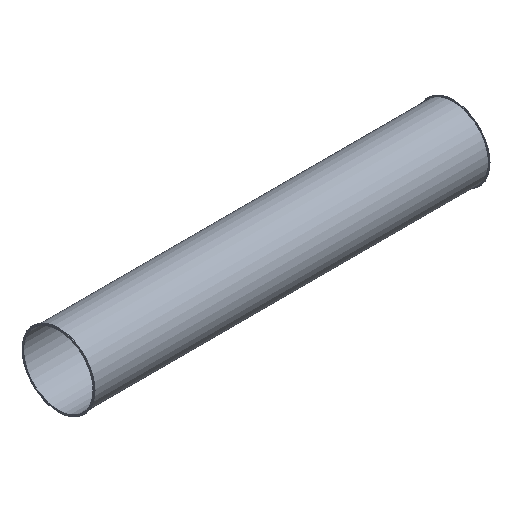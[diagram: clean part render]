
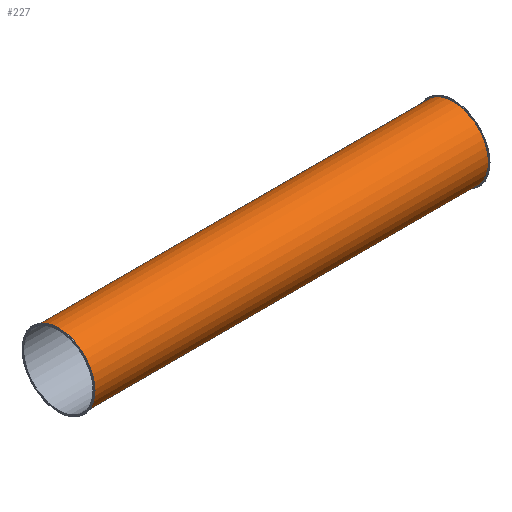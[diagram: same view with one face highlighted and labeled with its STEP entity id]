
A CAD part, isometric view. The second image highlights one B-rep face of the part: STEP entity #227.
In plain terms, the highlighted cylindrical face has radius 176.5 mm (diameter 353 mm), a full revolution.
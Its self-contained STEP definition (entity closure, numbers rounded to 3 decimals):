
#112=CARTESIAN_POINT('',(-31.741,2.915,0.0));
#113=VERTEX_POINT('',#112);
#114=CARTESIAN_POINT('',(-31.741,179.415,0.0));
#115=DIRECTION('',(-1.0,0.0,0.0));
#116=DIRECTION('',(0.0,-1.0,0.0));
#117=AXIS2_PLACEMENT_3D('',#114,#115,#116);
#118=CIRCLE('',#117,176.5);
#119=EDGE_CURVE('',#113,#113,#118,.T.);
#204=CARTESIAN_POINT('',(1950.259,2.915,0.0));
#205=VERTEX_POINT('',#204);
#206=CARTESIAN_POINT('',(1950.259,179.415,0.0));
#207=DIRECTION('',(-1.0,0.0,0.0));
#208=DIRECTION('',(0.0,-1.0,0.0));
#209=AXIS2_PLACEMENT_3D('',#206,#207,#208);
#210=CIRCLE('',#209,176.5);
#211=EDGE_CURVE('',#205,#205,#210,.T.);
#216=CARTESIAN_POINT('',(959.259,179.415,0.0));
#217=DIRECTION('',(-1.0,0.,0.0));
#218=DIRECTION('',(0.0,-1.0,0.0));
#219=AXIS2_PLACEMENT_3D('',#216,#217,#218);
#220=CYLINDRICAL_SURFACE('',#219,176.5);
#221=ORIENTED_EDGE('',*,*,#119,.F.);
#222=EDGE_LOOP('',(#221));
#223=FACE_OUTER_BOUND('',#222,.T.);
#224=ORIENTED_EDGE('',*,*,#211,.T.);
#225=EDGE_LOOP('',(#224));
#226=FACE_BOUND('',#225,.T.);
#227=ADVANCED_FACE('',(#223,#226),#220,.T.);
